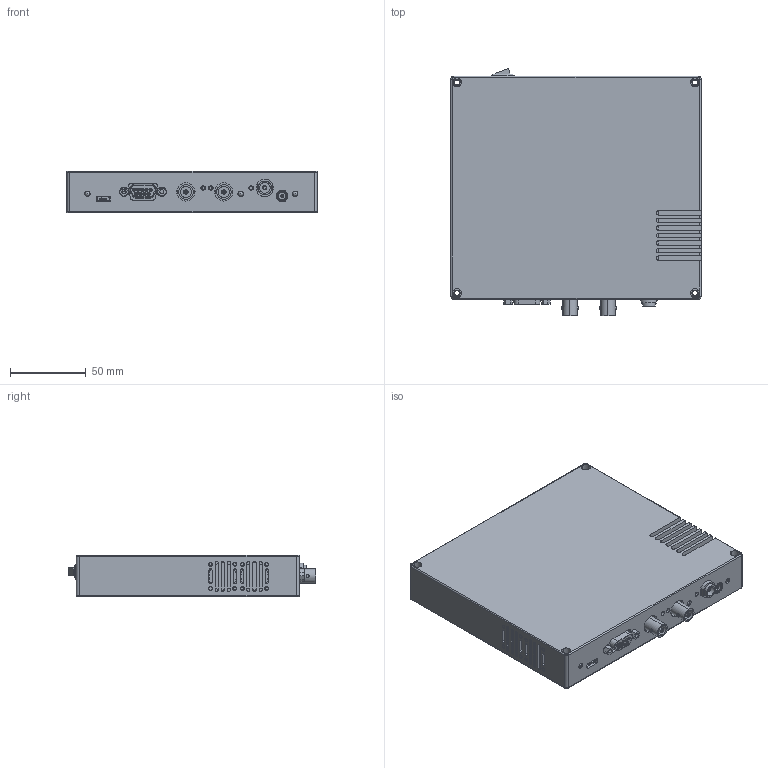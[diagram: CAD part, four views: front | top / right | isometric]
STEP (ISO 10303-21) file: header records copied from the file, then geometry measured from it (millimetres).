
FILE_DESCRIPTION (( 'STEP AP214' ), '1' );
FILE_NAME ('E53.D1C-H-蚾饜极.STEP', '2025-06-12T08:04:57', ( 'China' ), ( 'Home' ), 'SwSTEP 2.0', 'SolidWorks 2016', '' );
FILE_SCHEMA (( 'AUTOMOTIVE_DESIGN' ));
Length unit declared in the file: millimetre
Products named in the file (1): E53.D1C-H-蚾饜极
Bounding box: 165 x 163.06 x 27.5 mm (x, y, z)
Surface area: 147774.1 mm2 (no closed solid volume)
Topology: 0 solids, 55 shells, 470 faces, 2084 edges, 1652 vertices
Faces by surface type: cylinder 235, plane 175, cone 36, torus 12, bspline 9, sphere 3
Entity records: 27988 total; most frequent: CARTESIAN_POINT 5122, DIRECTION 3954, ORIENTED_EDGE 2972, EDGE_CURVE 2073, VERTEX_POINT 1646, AXIS2_PLACEMENT_3D 1479, CIRCLE 1017, VECTOR 996
